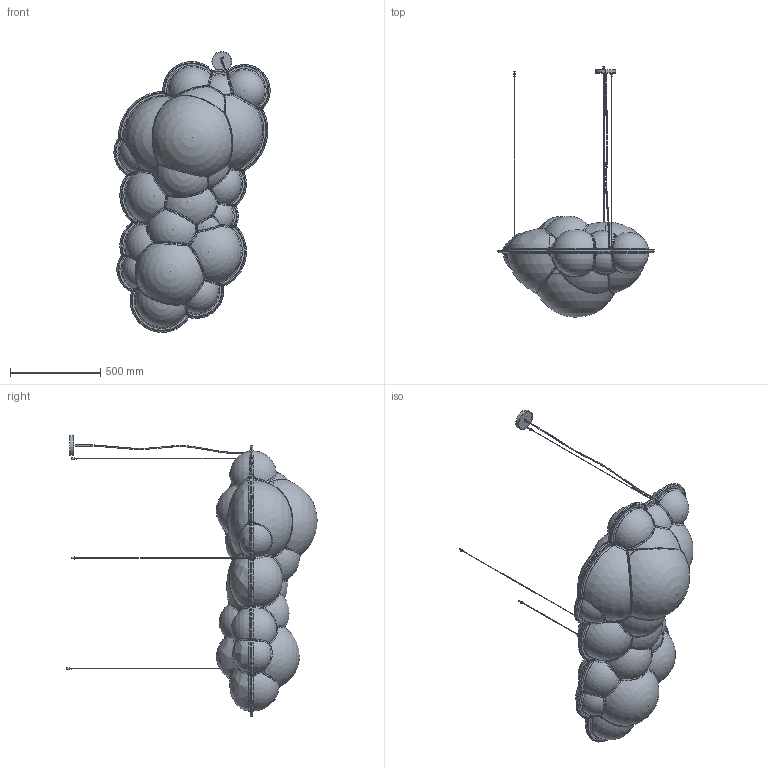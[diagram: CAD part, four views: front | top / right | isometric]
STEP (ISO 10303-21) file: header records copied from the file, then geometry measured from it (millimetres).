
FILE_DESCRIPTION (( 'STEP AP203' ), '1' );
FILE_NAME ('800NUVEWW511.STEP', '2017-02-16T13:21:27', ( '' ), ( '' ), 'SwSTEP 2.0', 'SolidWorks 2016', '' );
FILE_SCHEMA (( 'CONFIG_CONTROL_DESIGN' ));
Length unit declared in the file: millimetre
Products named in the file (26): 082COM000283; 052NUV000200_Nemo; Ass_PTL-FAUx3; 052NUV000400; 010MIM000800; Ass_PTL-MAUx3; 019COM000267; Cablaggio^800NUVEWW511; Ass_Lamp_UP; 052NUV000300_Versione2012; 800NUVEWW511; 010COM000004; 010NUV700300; 010REG005600; 010NUV100500; bloccacavo_STEAB_5922; 010NUV700200; 081COM000300; 010NUV700400; Ass_PTL-FAU; dado M3_semplice; STUDIO_FORI_PIANO; Ass_PTL-MAU; Ass_Rosone; 052NUV000100_Nemo; Ass_Lamp
Assembly tree (73 placements, depth 5):
  800NUVEWW511
    STUDIO_FORI_PIANO
      052NUV000300_Versione2012
      Ass_Lamp  x2
        Ass_PTL-FAU
          010REG005600
          010NUV700200
        Ass_PTL-MAU
          010REG005600
          010NUV700200
      Ass_Lamp_UP
        Ass_PTL-FAUx3
          010REG005600
          010NUV700200
        Ass_PTL-MAUx3
          010REG005600
          010NUV700200
      010NUV700300
      bloccacavo_STEAB_5922  x4
      010NUV700400  x2
    052NUV000100_Nemo
    052NUV000200_Nemo
    010MIM000800  x4
    bloccacavo_STEAB_5922  x3
    Cablaggio^800NUVEWW511
    010NUV700400
    010COM000004  x3
    Ass_Rosone
      010NUV100500
      081COM000300  x2
      dado M3_semplice
    082COM000283
    052NUV000400  x3
    019COM000267  x26
Bounding box: 864.65 x 1388.39 x 1555.35 mm (x, y, z)
Volume: 11054745.5 mm3; surface area: 10490365.7 mm2
Topology: 78 solids, 78 shells, 4154 faces, 11595 edges, 7182 vertices
Faces by surface type: plane 2130, cylinder 1011, torus 478, sphere 252, bspline 167, cone 116
Entity records: 110242 total; most frequent: CARTESIAN_POINT 33484, DIRECTION 16133, ORIENTED_EDGE 15264, EDGE_CURVE 7632, AXIS2_PLACEMENT_3D 6389, VERTEX_POINT 4852, CIRCLE 3880, VECTOR 3355
